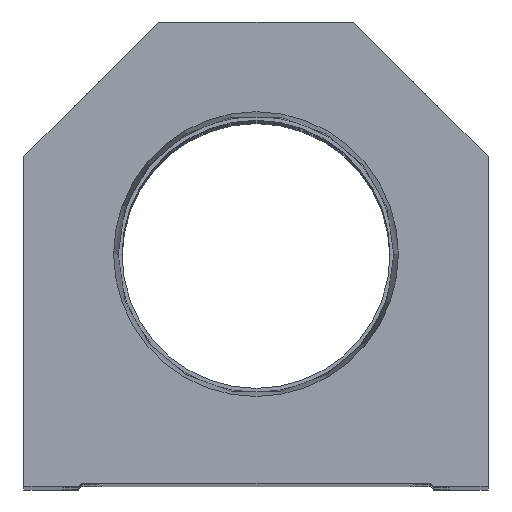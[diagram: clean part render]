
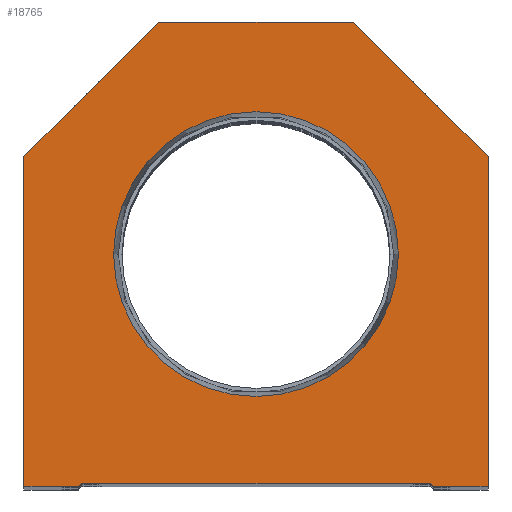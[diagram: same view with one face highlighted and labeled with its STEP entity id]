
A CAD part, top view. The second image highlights one B-rep face of the part: STEP entity #18765.
In plain terms, the highlighted planar face has unit normal (0, 0, 1).
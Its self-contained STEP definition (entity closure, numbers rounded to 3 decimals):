
#166 = DIRECTION ( 'NONE',  ( -0.707, 0.707, 0. ) ) ;
#223 = CARTESIAN_POINT ( 'NONE',  ( 16., 76.2, 0. ) ) ;
#493 = VERTEX_POINT ( 'NONE', #8943 ) ;
#787 = CARTESIAN_POINT ( 'NONE',  ( -28.6, 0.5, 0. ) ) ;
#1150 = CARTESIAN_POINT ( 'NONE',  ( -38.1, 54.1, 0. ) ) ;
#1175 = LINE ( 'NONE', #22216, #1488 ) ;
#1393 = EDGE_CURVE ( 'NONE', #9224, #12537, #16437, .T. ) ;
#1488 = VECTOR ( 'NONE', #11837, 1000. ) ;
#1621 = EDGE_CURVE ( 'NONE', #7028, #9224, #16298, .T. ) ;
#1828 = DIRECTION ( 'NONE',  ( 0., 1., 0. ) ) ;
#2110 = VECTOR ( 'NONE', #166, 1000. ) ;
#3375 = VERTEX_POINT ( 'NONE', #21565 ) ;
#3579 = CARTESIAN_POINT ( 'NONE',  ( 38.1, 54.1, 0. ) ) ;
#3678 = DIRECTION ( 'NONE',  ( 0., 0., 1. ) ) ;
#3699 = LINE ( 'NONE', #3579, #2110 ) ;
#4008 = CARTESIAN_POINT ( 'NONE',  ( -38.1, 54.1, 0. ) ) ;
#4071 = ORIENTED_EDGE ( 'NONE', *, *, #20307, .T. ) ;
#4310 = FACE_BOUND ( 'NONE', #21222, .T. ) ;
#4363 = EDGE_CURVE ( 'NONE', #9441, #11036, #18042, .T. ) ;
#4464 = CARTESIAN_POINT ( 'NONE',  ( 28.6, 0., 0. ) ) ;
#5335 = ORIENTED_EDGE ( 'NONE', *, *, #9165, .F. ) ;
#5504 = EDGE_LOOP ( 'NONE', ( #4071, #19339, #22664, #23082, #18056, #9305, #14113, #9063, #20929, #18142 ) ) ;
#5667 = CARTESIAN_POINT ( 'NONE',  ( -16., 76.2, 0. ) ) ;
#5801 = VERTEX_POINT ( 'NONE', #17576 ) ;
#6176 = DIRECTION ( 'NONE',  ( 1., 0., 0. ) ) ;
#6452 = LINE ( 'NONE', #4464, #13730 ) ;
#7028 = VERTEX_POINT ( 'NONE', #19187 ) ;
#7203 = VERTEX_POINT ( 'NONE', #20578 ) ;
#7976 = EDGE_CURVE ( 'NONE', #23045, #493, #21537, .T. ) ;
#8274 = EDGE_CURVE ( 'NONE', #7203, #21746, #13374, .T. ) ;
#8943 = CARTESIAN_POINT ( 'NONE',  ( 38.1, 54.1, 0. ) ) ;
#9063 = ORIENTED_EDGE ( 'NONE', *, *, #1621, .T. ) ;
#9165 = EDGE_CURVE ( 'NONE', #5801, #3375, #22667, .T. ) ;
#9224 = VERTEX_POINT ( 'NONE', #5667 ) ;
#9305 = ORIENTED_EDGE ( 'NONE', *, *, #7976, .T. ) ;
#9441 = VERTEX_POINT ( 'NONE', #13983 ) ;
#10018 = CIRCLE ( 'NONE', #19406, 23.374 ) ;
#10094 = VECTOR ( 'NONE', #21597, 1000. ) ;
#11036 = VERTEX_POINT ( 'NONE', #19655 ) ;
#11325 = VERTEX_POINT ( 'NONE', #22816 ) ;
#11341 = VECTOR ( 'NONE', #1828, 1000. ) ;
#11606 = DIRECTION ( 'NONE',  ( 1., 0., 0. ) ) ;
#11837 = DIRECTION ( 'NONE',  ( 1., 0., 0. ) ) ;
#12037 = EDGE_CURVE ( 'NONE', #3375, #5801, #10018, .T. ) ;
#12143 = LINE ( 'NONE', #13566, #23135 ) ;
#12537 = VERTEX_POINT ( 'NONE', #1150 ) ;
#12776 = DIRECTION ( 'NONE',  ( 1., 0., 0. ) ) ;
#13030 = CARTESIAN_POINT ( 'NONE',  ( 14.55, 14.55, 0. ) ) ;
#13374 = LINE ( 'NONE', #13030, #17757 ) ;
#13457 = ORIENTED_EDGE ( 'NONE', *, *, #12037, .F. ) ;
#13566 = CARTESIAN_POINT ( 'NONE',  ( -38.1, 0., 0. ) ) ;
#13730 = VECTOR ( 'NONE', #11606, 1000. ) ;
#13891 = CARTESIAN_POINT ( 'NONE',  ( 29.1, 0., 0. ) ) ;
#13983 = CARTESIAN_POINT ( 'NONE',  ( -29.1, 0., 0. ) ) ;
#14113 = ORIENTED_EDGE ( 'NONE', *, *, #21581, .T. ) ;
#14519 = CARTESIAN_POINT ( 'NONE',  ( 38.1, 0., 0. ) ) ;
#14683 = DIRECTION ( 'NONE',  ( -0.707, -0.707, 0. ) ) ;
#15492 = AXIS2_PLACEMENT_3D ( 'NONE', #19762, #3678, #15991 ) ;
#15991 = DIRECTION ( 'NONE',  ( 1., 0., 0. ) ) ;
#16288 = PLANE ( 'NONE',  #18304 ) ;
#16298 = LINE ( 'NONE', #223, #10094 ) ;
#16437 = LINE ( 'NONE', #4008, #18350 ) ;
#16712 = EDGE_CURVE ( 'NONE', #11036, #7203, #16863, .T. ) ;
#16749 = CARTESIAN_POINT ( 'NONE',  ( 0., 0., 0. ) ) ;
#16863 = LINE ( 'NONE', #787, #18308 ) ;
#17576 = CARTESIAN_POINT ( 'NONE',  ( 23.374, 38.1, 0. ) ) ;
#17757 = VECTOR ( 'NONE', #20316, 1000. ) ;
#17896 = CARTESIAN_POINT ( 'NONE',  ( 38.1, 0., 0. ) ) ;
#18042 = LINE ( 'NONE', #19797, #22995 ) ;
#18056 = ORIENTED_EDGE ( 'NONE', *, *, #22040, .T. ) ;
#18142 = ORIENTED_EDGE ( 'NONE', *, *, #22153, .T. ) ;
#18304 = AXIS2_PLACEMENT_3D ( 'NONE', #16749, #20400, #12776 ) ;
#18308 = VECTOR ( 'NONE', #22286, 1000. ) ;
#18350 = VECTOR ( 'NONE', #14683, 1000. ) ;
#18414 = FACE_OUTER_BOUND ( 'NONE', #5504, .T. ) ;
#18765 = ADVANCED_FACE ( 'NONE', ( #4310, #18414 ), #16288, .T. ) ;
#19187 = CARTESIAN_POINT ( 'NONE',  ( 16., 76.2, 0. ) ) ;
#19202 = DIRECTION ( 'NONE',  ( 0., 0., 1. ) ) ;
#19316 = DIRECTION ( 'NONE',  ( 0., -1., 0. ) ) ;
#19339 = ORIENTED_EDGE ( 'NONE', *, *, #4363, .T. ) ;
#19406 = AXIS2_PLACEMENT_3D ( 'NONE', #22632, #19202, #6176 ) ;
#19655 = CARTESIAN_POINT ( 'NONE',  ( -28.6, 0.5, 0. ) ) ;
#19762 = CARTESIAN_POINT ( 'NONE',  ( 0., 38.1, 0. ) ) ;
#19797 = CARTESIAN_POINT ( 'NONE',  ( -14.55, 14.55, 0. ) ) ;
#20307 = EDGE_CURVE ( 'NONE', #11325, #9441, #1175, .T. ) ;
#20316 = DIRECTION ( 'NONE',  ( 0.707, -0.707, 0. ) ) ;
#20400 = DIRECTION ( 'NONE',  ( 0., 0., 1. ) ) ;
#20578 = CARTESIAN_POINT ( 'NONE',  ( 28.6, 0.5, 0. ) ) ;
#20929 = ORIENTED_EDGE ( 'NONE', *, *, #1393, .T. ) ;
#21222 = EDGE_LOOP ( 'NONE', ( #5335, #13457 ) ) ;
#21537 = LINE ( 'NONE', #17896, #11341 ) ;
#21565 = CARTESIAN_POINT ( 'NONE',  ( -23.374, 38.1, 0. ) ) ;
#21581 = EDGE_CURVE ( 'NONE', #493, #7028, #3699, .T. ) ;
#21597 = DIRECTION ( 'NONE',  ( -1., 0., 0. ) ) ;
#21746 = VERTEX_POINT ( 'NONE', #13891 ) ;
#21915 = DIRECTION ( 'NONE',  ( 0.707, 0.707, 0. ) ) ;
#22040 = EDGE_CURVE ( 'NONE', #21746, #23045, #6452, .T. ) ;
#22153 = EDGE_CURVE ( 'NONE', #12537, #11325, #12143, .T. ) ;
#22216 = CARTESIAN_POINT ( 'NONE',  ( -28.6, 0., 0. ) ) ;
#22286 = DIRECTION ( 'NONE',  ( 1., 0., 0. ) ) ;
#22632 = CARTESIAN_POINT ( 'NONE',  ( 0., 38.1, 0. ) ) ;
#22664 = ORIENTED_EDGE ( 'NONE', *, *, #16712, .T. ) ;
#22667 = CIRCLE ( 'NONE', #15492, 23.374 ) ;
#22816 = CARTESIAN_POINT ( 'NONE',  ( -38.1, 0., 0. ) ) ;
#22995 = VECTOR ( 'NONE', #21915, 1000. ) ;
#23045 = VERTEX_POINT ( 'NONE', #14519 ) ;
#23082 = ORIENTED_EDGE ( 'NONE', *, *, #8274, .T. ) ;
#23135 = VECTOR ( 'NONE', #19316, 1000. ) ;
